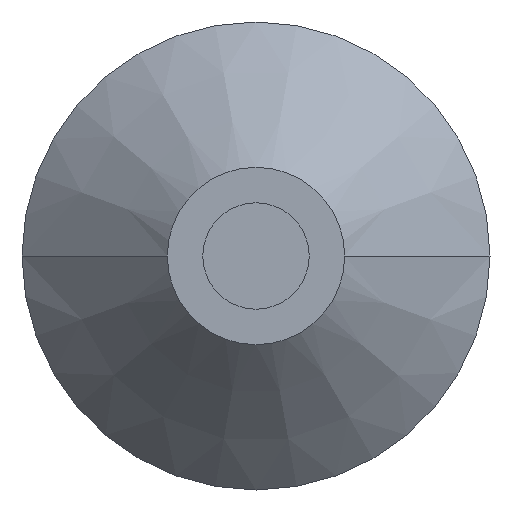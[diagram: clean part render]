
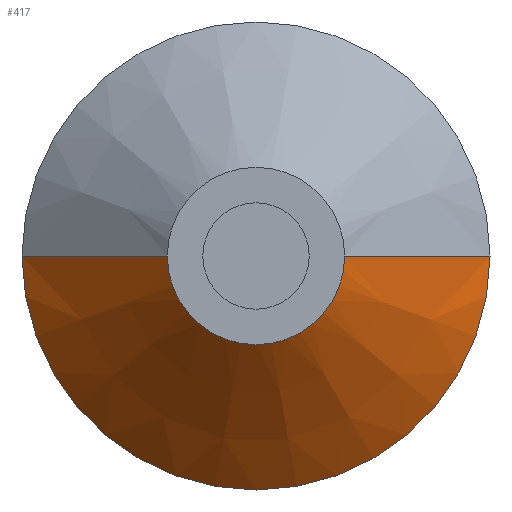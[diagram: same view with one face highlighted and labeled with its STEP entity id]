
A CAD part, front view. The second image highlights one B-rep face of the part: STEP entity #417.
In plain terms, the highlighted conical face has half-angle 45.707 degrees and reference radius 2.275 mm.
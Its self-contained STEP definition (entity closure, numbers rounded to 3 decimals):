
#65=DIRECTION('',(0.716,0.698,0.));
#66=VECTOR('',#65,2.864);
#67=CARTESIAN_POINT('',(1.25,11.,0.));
#68=LINE('',#67,#66);
#72=DIRECTION('',(-0.716,0.698,0.));
#73=VECTOR('',#72,2.864);
#74=CARTESIAN_POINT('',(-1.25,11.,0.));
#75=LINE('',#74,#73);
#79=CARTESIAN_POINT('',(0.,11.,0.));
#80=DIRECTION('',(0.,1.,0.));
#81=DIRECTION('',(1.,0.,0.));
#82=AXIS2_PLACEMENT_3D('',#79,#80,#81);
#117=CARTESIAN_POINT('',(0.,13.,0.));
#118=DIRECTION('',(0.,1.,0.));
#119=DIRECTION('',(1.,0.,0.));
#120=AXIS2_PLACEMENT_3D('',#117,#118,#119);
#292=CARTESIAN_POINT('',(1.25,11.,0.));
#294=VERTEX_POINT('',#292);
#295=CARTESIAN_POINT('',(3.3,13.,0.));
#296=VERTEX_POINT('',#295);
#300=CARTESIAN_POINT('',(-1.25,11.,0.));
#302=VERTEX_POINT('',#300);
#303=CARTESIAN_POINT('',(-3.3,13.,0.));
#304=VERTEX_POINT('',#303);
#403=CARTESIAN_POINT('',(0.,12.,0.));
#404=DIRECTION('',(0.,1.,0.));
#405=DIRECTION('',(1.,0.,0.));
#406=AXIS2_PLACEMENT_3D('',#403,#404,#405);
#407=CONICAL_SURFACE('',#406,2.275,45.707);
#409=ORIENTED_EDGE('',*,*,#408,.T.);
#411=ORIENTED_EDGE('',*,*,#410,.T.);
#413=ORIENTED_EDGE('',*,*,#412,.F.);
#414=ORIENTED_EDGE('',*,*,#384,.F.);
#415=EDGE_LOOP('',(#409,#411,#413,#414));
#416=FACE_OUTER_BOUND('',#415,.F.);
#83=CIRCLE('',#82,1.25);
#121=CIRCLE('',#120,3.3);
#384=EDGE_CURVE('',#294,#302,#83,.T.);
#408=EDGE_CURVE('',#294,#296,#68,.T.);
#410=EDGE_CURVE('',#296,#304,#121,.T.);
#412=EDGE_CURVE('',#302,#304,#75,.T.);
#417=ADVANCED_FACE('',(#416),#407,.T.);
